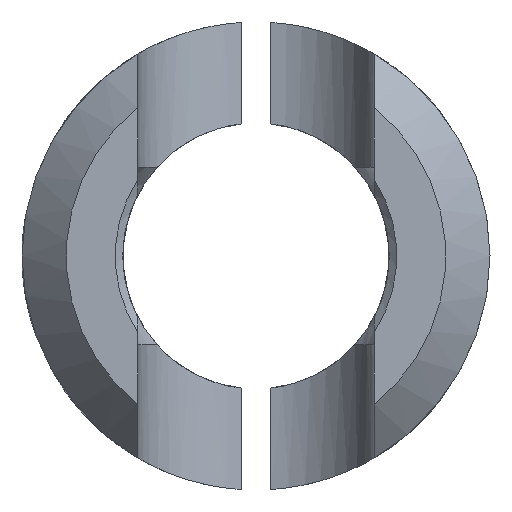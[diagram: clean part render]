
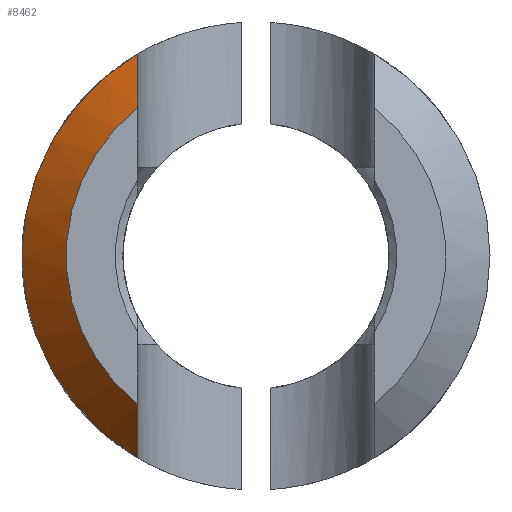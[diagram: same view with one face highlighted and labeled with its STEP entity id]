
A CAD part, left-side view. The second image highlights one B-rep face of the part: STEP entity #8462.
In plain terms, the highlighted conical face has half-angle 45 degrees and reference radius 25.148 mm.
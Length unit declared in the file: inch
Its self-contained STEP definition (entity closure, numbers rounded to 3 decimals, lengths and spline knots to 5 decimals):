
#466 = CARTESIAN_POINT ( 'NONE',  ( -1.12657, 0.5, -0.78033 ) ) ;
#587 = AXIS2_PLACEMENT_3D ( 'NONE', #6709, #12401, #11499 ) ;
#680 = AXIS2_PLACEMENT_3D ( 'NONE', #9062, #5406, #13671 ) ;
#1622 = CIRCLE ( 'NONE', #680, 0.99008 ) ;
#2662 = CARTESIAN_POINT ( 'NONE',  ( -1.0625, 0.5, -0.85455 ) ) ;
#2936 = FACE_OUTER_BOUND ( 'NONE', #14104, .T. ) ;
#3077 = VERTEX_POINT ( 'NONE', #8394 ) ;
#3248 = CIRCLE ( 'NONE', #587, 0.80258 ) ;
#3796 = CARTESIAN_POINT ( 'NONE',  ( -1.25, 0.5, -0.62781 ) ) ;
#4247 = AXIS2_PLACEMENT_3D ( 'NONE', #8802, #9887, #8881 ) ;
#4261 = B_SPLINE_CURVE_WITH_KNOTS ( 'NONE', 3,
 ( #3796, #8670, #466, #2662 ),
 .UNSPECIFIED., .F., .F.,
 ( 4, 4 ),
 ( 0.08749, 0.09494 ),
 .UNSPECIFIED. ) ;
#4620 = EDGE_CURVE ( 'NONE', #3077, #13001, #4261, .T. ) ;
#5388 = B_SPLINE_CURVE_WITH_KNOTS ( 'NONE', 3,
 ( #13452, #10158, #7685, #13676 ),
 .UNSPECIFIED., .F., .F.,
 ( 4, 4 ),
 ( 0.0442, 0.05167 ),
 .UNSPECIFIED. ) ;
#5406 = DIRECTION ( 'NONE',  ( 1., 0., 0. ) ) ;
#5776 = EDGE_CURVE ( 'NONE', #3077, #7697, #3248, .T. ) ;
#6010 = ORIENTED_EDGE ( 'NONE', *, *, #12135, .F. ) ;
#6709 = CARTESIAN_POINT ( 'NONE',  ( -1.25, 0., 0. ) ) ;
#7685 = CARTESIAN_POINT ( 'NONE',  ( -1.18967, 0.5, 0.70493 ) ) ;
#7697 = VERTEX_POINT ( 'NONE', #14354 ) ;
#7847 = EDGE_CURVE ( 'NONE', #9687, #7697, #5388, .T. ) ;
#8158 = CONICAL_SURFACE ( 'NONE', #4247, 0.99008, 0.785 ) ;
#8289 = ORIENTED_EDGE ( 'NONE', *, *, #7847, .F. ) ;
#8394 = CARTESIAN_POINT ( 'NONE',  ( -1.25, 0.5, -0.62781 ) ) ;
#8462 = ADVANCED_FACE ( 'NONE', ( #2936 ), #8158, .T. ) ;
#8670 = CARTESIAN_POINT ( 'NONE',  ( -1.18951, 0.5, -0.70513 ) ) ;
#8802 = CARTESIAN_POINT ( 'NONE',  ( -1.0625, 0., 0. ) ) ;
#8881 = DIRECTION ( 'NONE',  ( 0., 0., -1. ) ) ;
#9062 = CARTESIAN_POINT ( 'NONE',  ( -1.0625, 0., 0. ) ) ;
#9687 = VERTEX_POINT ( 'NONE', #10280 ) ;
#9887 = DIRECTION ( 'NONE',  ( 1., 0., 0. ) ) ;
#10158 = CARTESIAN_POINT ( 'NONE',  ( -1.12659, 0.5, 0.7803 ) ) ;
#10280 = CARTESIAN_POINT ( 'NONE',  ( -1.0625, 0.5, 0.85455 ) ) ;
#10465 = ORIENTED_EDGE ( 'NONE', *, *, #5776, .T. ) ;
#11499 = DIRECTION ( 'NONE',  ( 0., 0., -1. ) ) ;
#12135 = EDGE_CURVE ( 'NONE', #13001, #9687, #1622, .T. ) ;
#12401 = DIRECTION ( 'NONE',  ( 1., 0., 0. ) ) ;
#13001 = VERTEX_POINT ( 'NONE', #13487 ) ;
#13452 = CARTESIAN_POINT ( 'NONE',  ( -1.0625, 0.5, 0.85455 ) ) ;
#13487 = CARTESIAN_POINT ( 'NONE',  ( -1.0625, 0.5, -0.85455 ) ) ;
#13671 = DIRECTION ( 'NONE',  ( 0., 0., -1. ) ) ;
#13676 = CARTESIAN_POINT ( 'NONE',  ( -1.25, 0.5, 0.62781 ) ) ;
#14104 = EDGE_LOOP ( 'NONE', ( #8289, #6010, #14849, #10465 ) ) ;
#14354 = CARTESIAN_POINT ( 'NONE',  ( -1.25, 0.5, 0.62781 ) ) ;
#14849 = ORIENTED_EDGE ( 'NONE', *, *, #4620, .F. ) ;
